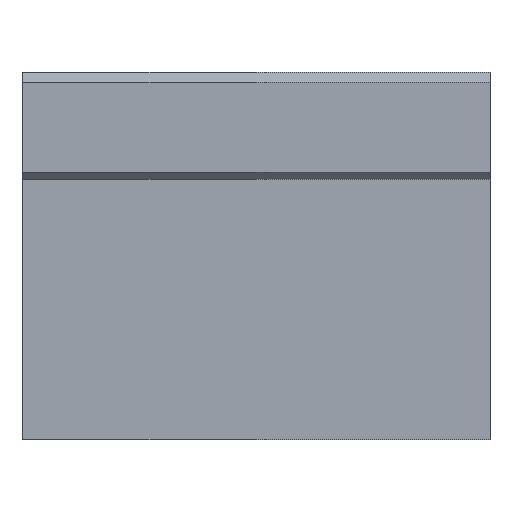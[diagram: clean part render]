
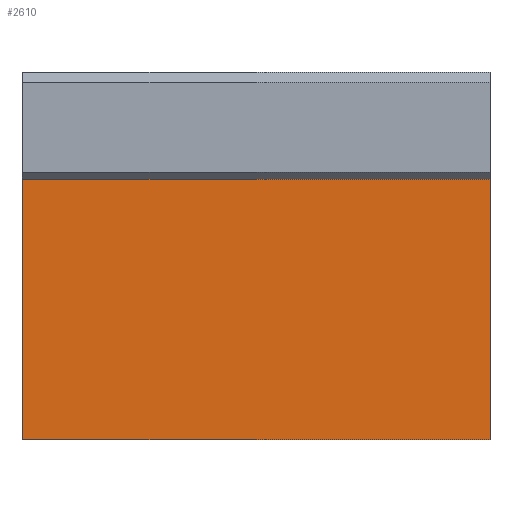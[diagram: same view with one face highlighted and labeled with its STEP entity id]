
A CAD part, front view. The second image highlights one B-rep face of the part: STEP entity #2610.
In plain terms, the highlighted planar face has unit normal (0, -1, 0).
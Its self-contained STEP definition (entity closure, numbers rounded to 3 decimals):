
#2547=CARTESIAN_POINT('',(0.0,-38.,17.0));
#2548=VERTEX_POINT('',#2547);
#2555=CARTESIAN_POINT('',(70.0,-38.,17.0));
#2556=VERTEX_POINT('',#2555);
#2557=CARTESIAN_POINT('',(0.0,-38.,17.0));
#2558=DIRECTION('',(1.0,0.0,0.0));
#2559=VECTOR('',#2558,70.0);
#2560=LINE('',#2557,#2559);
#2561=EDGE_CURVE('',#2548,#2556,#2560,.T.);
#2580=CARTESIAN_POINT('',(0.0,-38.0,-22.0));
#2581=DIRECTION('',(0.0,-1.0,0.0));
#2582=DIRECTION('',(0.0,0.0,-1.0));
#2583=AXIS2_PLACEMENT_3D('',#2580,#2581,#2582);
#2584=PLANE('',#2583);
#2585=ORIENTED_EDGE('',*,*,#2561,.F.);
#2586=CARTESIAN_POINT('',(0.0,-38.0,-22.0));
#2587=VERTEX_POINT('',#2586);
#2588=CARTESIAN_POINT('',(0.0,-38.,17.0));
#2589=DIRECTION('',(0.0,0.0,-1.0));
#2590=VECTOR('',#2589,39.0);
#2591=LINE('',#2588,#2590);
#2592=EDGE_CURVE('',#2548,#2587,#2591,.T.);
#2593=ORIENTED_EDGE('',*,*,#2592,.T.);
#2594=CARTESIAN_POINT('',(70.0,-38.0,-22.0));
#2595=VERTEX_POINT('',#2594);
#2596=CARTESIAN_POINT('',(0.0,-38.0,-22.0));
#2597=DIRECTION('',(1.0,0.0,0.0));
#2598=VECTOR('',#2597,70.0);
#2599=LINE('',#2596,#2598);
#2600=EDGE_CURVE('',#2587,#2595,#2599,.T.);
#2601=ORIENTED_EDGE('',*,*,#2600,.T.);
#2602=CARTESIAN_POINT('',(70.0,-38.0,-22.0));
#2603=DIRECTION('',(0.0,0.0,1.0));
#2604=VECTOR('',#2603,39.0);
#2605=LINE('',#2602,#2604);
#2606=EDGE_CURVE('',#2595,#2556,#2605,.T.);
#2607=ORIENTED_EDGE('',*,*,#2606,.T.);
#2608=EDGE_LOOP('',(#2585,#2593,#2601,#2607));
#2609=FACE_OUTER_BOUND('',#2608,.T.);
#2610=ADVANCED_FACE('',(#2609),#2584,.T.);
